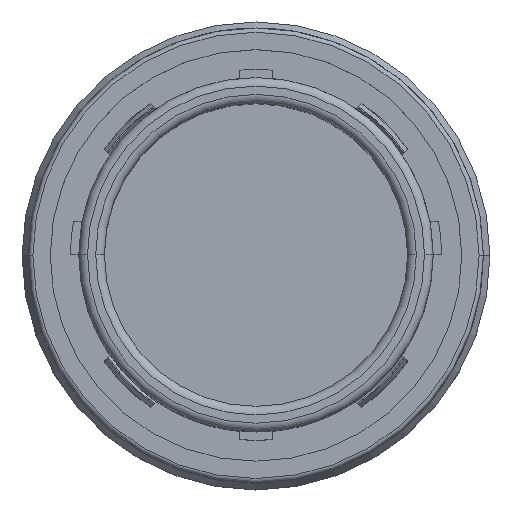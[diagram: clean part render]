
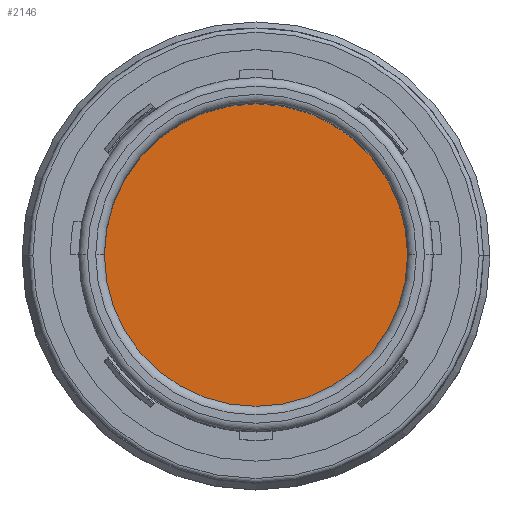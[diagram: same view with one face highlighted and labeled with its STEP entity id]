
A CAD part, top view. The second image highlights one B-rep face of the part: STEP entity #2146.
In plain terms, the highlighted planar face has unit normal (0, 0, 1).
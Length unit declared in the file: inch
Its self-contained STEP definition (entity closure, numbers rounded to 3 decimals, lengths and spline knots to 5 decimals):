
#52 = DIRECTION ( 'NONE',  ( 0., 0., -1. ) ) ;
#395 = DIRECTION ( 'NONE',  ( -1., 0., 0. ) ) ;
#681 = EDGE_CURVE ( 'NONE', #1271, #2889, #3312, .T. ) ;
#792 = AXIS2_PLACEMENT_3D ( 'NONE', #5467, #5933, #395 ) ;
#824 = CARTESIAN_POINT ( 'NONE',  ( -0.35, 0., -0.994 ) ) ;
#1095 = EDGE_CURVE ( 'NONE', #2889, #1271, #2263, .T. ) ;
#1178 = DIRECTION ( 'NONE',  ( 0., 0., -1. ) ) ;
#1271 = VERTEX_POINT ( 'NONE', #6825 ) ;
#2146 = ADVANCED_FACE ( 'NONE', ( #5389 ), #5503, .F. ) ;
#2263 = CIRCLE ( 'NONE', #6325, 0.35 ) ;
#2889 = VERTEX_POINT ( 'NONE', #824 ) ;
#2955 = AXIS2_PLACEMENT_3D ( 'NONE', #4567, #52, #3473 ) ;
#3312 = CIRCLE ( 'NONE', #2955, 0.35 ) ;
#3401 = ORIENTED_EDGE ( 'NONE', *, *, #681, .F. ) ;
#3473 = DIRECTION ( 'NONE',  ( -1., 0., 0. ) ) ;
#3871 = CARTESIAN_POINT ( 'NONE',  ( 0., 0., -0.994 ) ) ;
#3943 = ORIENTED_EDGE ( 'NONE', *, *, #1095, .F. ) ;
#4567 = CARTESIAN_POINT ( 'NONE',  ( 0., 0., -0.994 ) ) ;
#5348 = EDGE_LOOP ( 'NONE', ( #3401, #3943 ) ) ;
#5389 = FACE_OUTER_BOUND ( 'NONE', #5348, .T. ) ;
#5467 = CARTESIAN_POINT ( 'NONE',  ( 0., 0., -0.994 ) ) ;
#5503 = PLANE ( 'NONE',  #792 ) ;
#5933 = DIRECTION ( 'NONE',  ( 0., 0., -1. ) ) ;
#6081 = DIRECTION ( 'NONE',  ( -1., 0., 0. ) ) ;
#6325 = AXIS2_PLACEMENT_3D ( 'NONE', #3871, #1178, #6081 ) ;
#6825 = CARTESIAN_POINT ( 'NONE',  ( 0.35, 0., -0.994 ) ) ;
